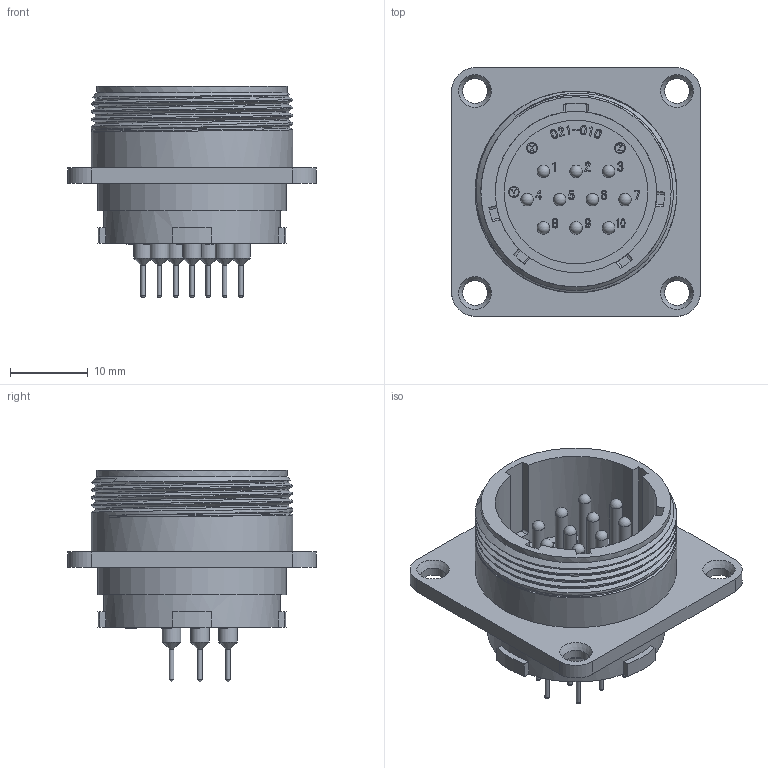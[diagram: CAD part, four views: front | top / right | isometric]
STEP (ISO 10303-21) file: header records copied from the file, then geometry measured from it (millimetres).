
FILE_DESCRIPTION (( 'STEP AP203' ), '1' );
FILE_NAME ('JMR2110MD-D.STEP', '2021-11-11T12:58:13', ( '' ), ( '' ), 'SwSTEP 2.0', 'SolidWorks 2018', '' );
FILE_SCHEMA (( 'CONFIG_CONTROL_DESIGN' ));
Products named in the file (1): JMR2110MD-D
Bounding box: 32 x 32 x 27.2 mm (x, y, z)
Volume: 6506.6 mm3; surface area: 5882.1 mm2
Topology: 1 solids, 1 shells, 810 faces, 2240 edges, 1475 vertices
Faces by surface type: bspline 384, plane 309, cylinder 81, sphere 20, cone 16
Full cylindrical faces by diameter (mm): 0.6 x10, 1.2 x4, 1.4 x4, 1.6 x10, 2.4 x10, 3.2 x4, 18.1 x1, 18.5 x1, 20.8 x1, 22.8 x1, 24.3 x1, 24.5 x1, 25.96 x4
Entity records: 36961 total; most frequent: CARTESIAN_POINT 19724, ORIENTED_EDGE 4126, DIRECTION 2277, EDGE_CURVE 2063, VERTEX_POINT 1407, VECTOR 1117, LINE 1117, EDGE_LOOP 960
